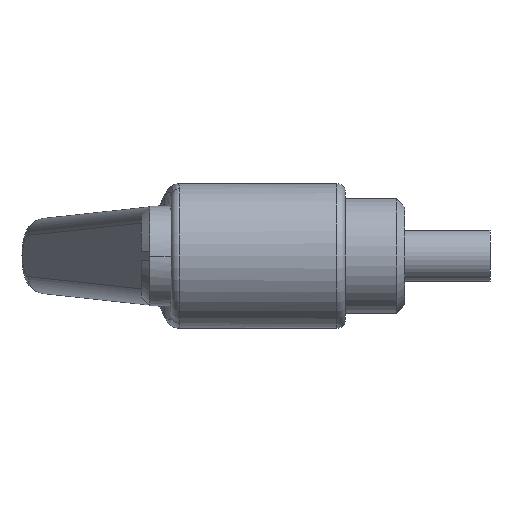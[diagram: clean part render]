
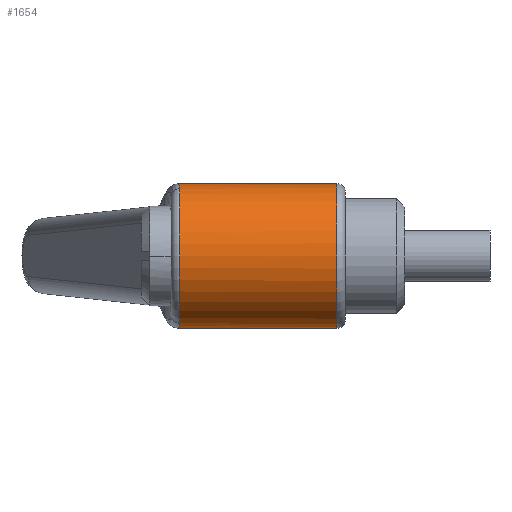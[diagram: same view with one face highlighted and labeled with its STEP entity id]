
A CAD part, left-side view. The second image highlights one B-rep face of the part: STEP entity #1654.
In plain terms, the highlighted cylindrical face has radius 8.5 mm (diameter 17 mm), a partial arc.
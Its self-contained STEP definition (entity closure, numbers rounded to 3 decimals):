
#56 = CIRCLE ( 'NONE', #1474, 8.5 ) ;
#61 = CARTESIAN_POINT ( 'NONE',  ( 0., -19.5, 8.5 ) ) ;
#84 = B_SPLINE_CURVE_WITH_KNOTS ( 'NONE', 3,
 ( #737, #1235, #256, #1419, #403, #1577, #589, #1738 ),
 .UNSPECIFIED., .F., .F.,
 ( 4, 2, 2, 4 ),
 ( 0., 0.002, 0.002, 0.003 ),
 .UNSPECIFIED. ) ;
#104 = VECTOR ( 'NONE', #1711, 1000. ) ;
#239 = CARTESIAN_POINT ( 'NONE',  ( 0., -0.821, 8.5 ) ) ;
#241 = CARTESIAN_POINT ( 'NONE',  ( 0., 20.5, -8.5 ) ) ;
#256 = CARTESIAN_POINT ( 'NONE',  ( -2.097, -0.986, -8.254 ) ) ;
#258 = CARTESIAN_POINT ( 'NONE',  ( 0., -19.5, 0. ) ) ;
#295 = CARTESIAN_POINT ( 'NONE',  ( 0., -1., 0. ) ) ;
#334 = DIRECTION ( 'NONE',  ( 0., -1., 0. ) ) ;
#383 = CARTESIAN_POINT ( 'NONE',  ( -1.049, -0.927, 8.452 ) ) ;
#403 = CARTESIAN_POINT ( 'NONE',  ( -1.058, -0.924, -8.438 ) ) ;
#405 = DIRECTION ( 'NONE',  ( 0., 0., 1. ) ) ;
#450 = DIRECTION ( 'NONE',  ( 0., 0., -1. ) ) ;
#528 = EDGE_CURVE ( 'NONE', #1780, #587, #1214, .T. ) ;
#534 = CARTESIAN_POINT ( 'NONE',  ( 0., -0.821, -8.5 ) ) ;
#561 = CARTESIAN_POINT ( 'NONE',  ( -2.605, -1., 8.109 ) ) ;
#563 = VERTEX_POINT ( 'NONE', #1073 ) ;
#587 = VERTEX_POINT ( 'NONE', #910 ) ;
#589 = CARTESIAN_POINT ( 'NONE',  ( -0.264, -0.851, -8.5 ) ) ;
#600 = ORIENTED_EDGE ( 'NONE', *, *, #983, .T. ) ;
#602 = CARTESIAN_POINT ( 'NONE',  ( 0., -0.821, 8.5 ) ) ;
#616 = EDGE_LOOP ( 'NONE', ( #1969, #2029, #600, #632, #1262, #1288 ) ) ;
#632 = ORIENTED_EDGE ( 'NONE', *, *, #869, .T. ) ;
#635 = VERTEX_POINT ( 'NONE', #602 ) ;
#653 = EDGE_CURVE ( 'NONE', #635, #866, #1620, .T. ) ;
#737 = CARTESIAN_POINT ( 'NONE',  ( -3.103, -1., -7.913 ) ) ;
#823 = EDGE_CURVE ( 'NONE', #635, #1772, #1957, .T. ) ;
#830 = DIRECTION ( 'NONE',  ( 0., 0., -1. ) ) ;
#866 = VERTEX_POINT ( 'NONE', #61 ) ;
#869 = EDGE_CURVE ( 'NONE', #563, #1780, #84, .T. ) ;
#910 = CARTESIAN_POINT ( 'NONE',  ( 0., -19.5, -8.5 ) ) ;
#971 = CYLINDRICAL_SURFACE ( 'NONE', #2086, 8.5 ) ;
#981 = CARTESIAN_POINT ( 'NONE',  ( 0., 20.5, 0. ) ) ;
#983 = EDGE_CURVE ( 'NONE', #1772, #563, #2023, .T. ) ;
#1028 = FACE_OUTER_BOUND ( 'NONE', #616, .T. ) ;
#1073 = CARTESIAN_POINT ( 'NONE',  ( -3.103, -1., -7.913 ) ) ;
#1106 = CARTESIAN_POINT ( 'NONE',  ( 0., 20.5, 8.5 ) ) ;
#1178 = VECTOR ( 'NONE', #334, 1000. ) ;
#1214 = LINE ( 'NONE', #241, #104 ) ;
#1235 = CARTESIAN_POINT ( 'NONE',  ( -2.605, -1., -8.109 ) ) ;
#1262 = ORIENTED_EDGE ( 'NONE', *, *, #528, .T. ) ;
#1284 = EDGE_CURVE ( 'NONE', #587, #866, #56, .T. ) ;
#1288 = ORIENTED_EDGE ( 'NONE', *, *, #1284, .T. ) ;
#1419 = CARTESIAN_POINT ( 'NONE',  ( -1.32, -0.942, -8.401 ) ) ;
#1421 = DIRECTION ( 'NONE',  ( 0., 1., 0. ) ) ;
#1456 = DIRECTION ( 'NONE',  ( 0., -1., 0. ) ) ;
#1474 = AXIS2_PLACEMENT_3D ( 'NONE', #258, #1421, #405 ) ;
#1561 = CARTESIAN_POINT ( 'NONE',  ( -2.088, -0.986, 8.257 ) ) ;
#1577 = CARTESIAN_POINT ( 'NONE',  ( -0.531, -0.878, -8.488 ) ) ;
#1620 = LINE ( 'NONE', #1106, #1178 ) ;
#1654 = ADVANCED_FACE ( 'NONE', ( #1028 ), #971, .T. ) ;
#1688 = CARTESIAN_POINT ( 'NONE',  ( -3.103, -1., 7.913 ) ) ;
#1710 = CARTESIAN_POINT ( 'NONE',  ( -3.103, -1., 7.913 ) ) ;
#1711 = DIRECTION ( 'NONE',  ( 0., -1., 0. ) ) ;
#1738 = CARTESIAN_POINT ( 'NONE',  ( 0., -0.821, -8.5 ) ) ;
#1772 = VERTEX_POINT ( 'NONE', #1688 ) ;
#1780 = VERTEX_POINT ( 'NONE', #534 ) ;
#1817 = DIRECTION ( 'NONE',  ( 0., -1., 0. ) ) ;
#1833 = AXIS2_PLACEMENT_3D ( 'NONE', #295, #1456, #450 ) ;
#1957 = B_SPLINE_CURVE_WITH_KNOTS ( 'NONE', 3,
 ( #239, #2026, #383, #1561, #561, #1710 ),
 .UNSPECIFIED., .F., .F.,
 ( 4, 2, 4 ),
 ( 0.003, 0.005, 0.007 ),
 .UNSPECIFIED. ) ;
#1969 = ORIENTED_EDGE ( 'NONE', *, *, #653, .F. ) ;
#2023 = CIRCLE ( 'NONE', #1833, 8.5 ) ;
#2026 = CARTESIAN_POINT ( 'NONE',  ( -0.526, -0.882, 8.5 ) ) ;
#2029 = ORIENTED_EDGE ( 'NONE', *, *, #823, .T. ) ;
#2086 = AXIS2_PLACEMENT_3D ( 'NONE', #981, #1817, #830 ) ;
